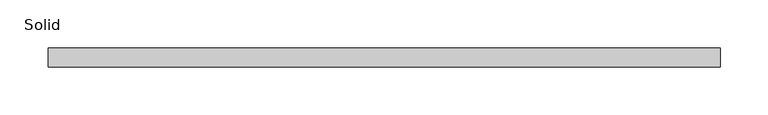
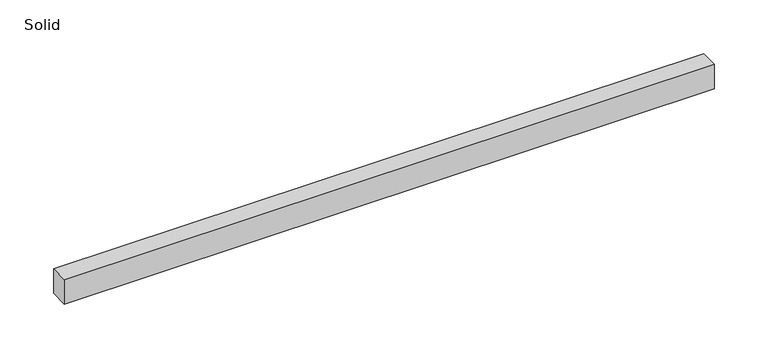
"""IFC4 building model written with IfcOpenShell, lengths in millimetres: sanitary terminal geometry, ZZZ_do not use_PF_ST_UN_grating for ShowerDrain S_ACO : Solid."""

from ifc_helpers import new_model, si_unit, frame, origin, place, context, project, spatial, polyline, outline, extrude, source, transform, mapped, element, save


def solid_5995f6f9(model_context):
    return source(origin(), model_context, "Body", "SweptSolid", [
        extrude(outline(polyline([(350.0, 10.0), (350.0, -10.0), (-350.0, -10.0), (-350.0, 10.0), (350.0, 10.0)])), frame((0.0, 0.0, -28.0), z_axis=(0.0, 0.0, 1.0), x_axis=(1.0, 0.0, 0.0)), (0.0, 0.0, 1.0), 28.0),
    ])


if __name__ == "__main__":
    model = new_model("IFC4")
    model_context = context("Model", 3, world=origin())
    ifc_project = project(units=[si_unit("LENGTHUNIT", "METRE", prefix="MILLI")], contexts=[model_context])
    site = spatial("IfcSite", under=ifc_project)
    building = spatial("IfcBuilding", under=site)
    placement = place(None, origin())
    solid_shape = solid_5995f6f9(model_context)
    element("IfcSanitaryTerminal", 1, ObjectType="ZZZ_do not use_PF_ST_UN_grating for ShowerDrain S_ACO : Solid", at=placement, inside=building, context=model_context, shape_type="MappedRepresentation", body=[
        mapped(solid_shape, transform((0.0, 0.0, 0.0), x_axis=(1.0, 0.0, 0.0), y_axis=(0.0, 1.0, 0.0), z_axis=(0.0, 0.0, 1.0))),
    ])
    save(model, "model.ifc")
